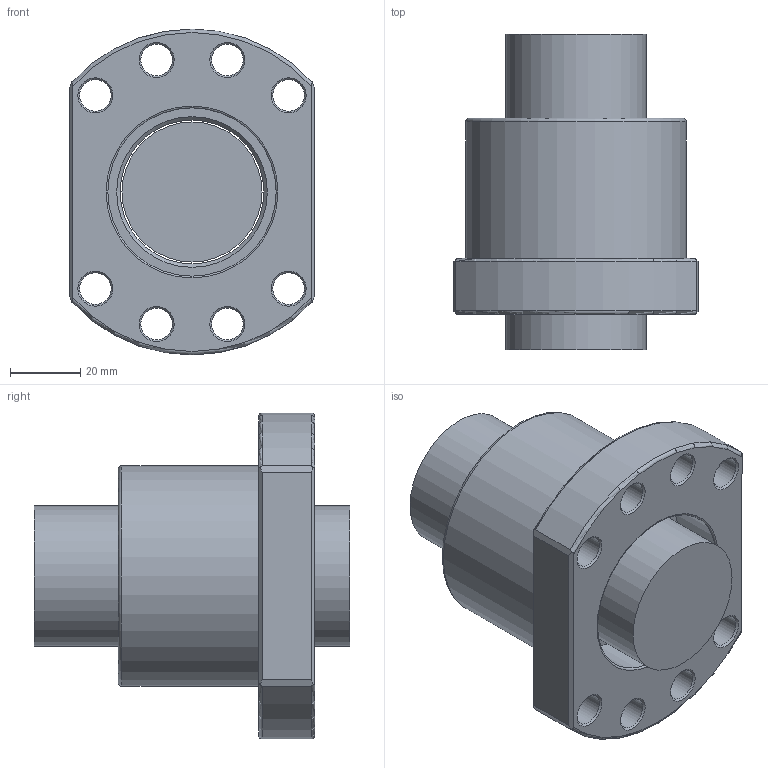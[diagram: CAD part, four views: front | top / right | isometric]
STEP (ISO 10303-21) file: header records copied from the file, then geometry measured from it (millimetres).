
FILE_DESCRIPTION(/* description */ (''),/* implementation_level */ '2;1');
FILE_NAME(/* name */ '4005.prt.step',/* time_stamp */ '2008-12-05T09:30:39+08:00',/* author */ (''),/* organization */ (''),/* preprocessor_version */ 'ST-DEVELOPER v11',/* originating_system */ 'SIEMENS UGS NX 6.0',/* authorisation */ '');
FILE_SCHEMA (('AUTOMOTIVE_DESIGN { 1 0 10303 214 1 1 1 1 }'));
Length unit declared in the file: millimetre
Products named in the file (1): 4005
Bounding box: 70 x 90 x 93 mm (x, y, z)
Volume: 233049.6 mm3; surface area: 45010.8 mm2
Topology: 2 solids, 2 shells, 57 faces, 133 edges, 83 vertices
Faces by surface type: cone 18, plane 17, cylinder 15, torus 7
Full cylindrical faces by diameter (mm): 9 x8, 39.95 x1, 41 x1, 48 x2, 63 x1
Entity records: 1694 total; most frequent: CARTESIAN_POINT 472, DIRECTION 250, ORIENTED_EDGE 190, AXIS2_PLACEMENT_3D 113, EDGE_LOOP 112, EDGE_CURVE 95, FACE_BOUND 94, VERTEX_POINT 79
